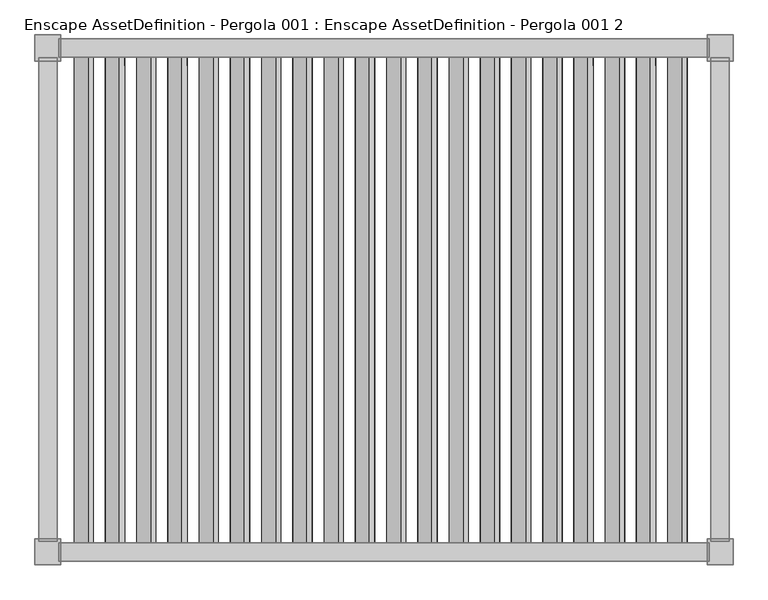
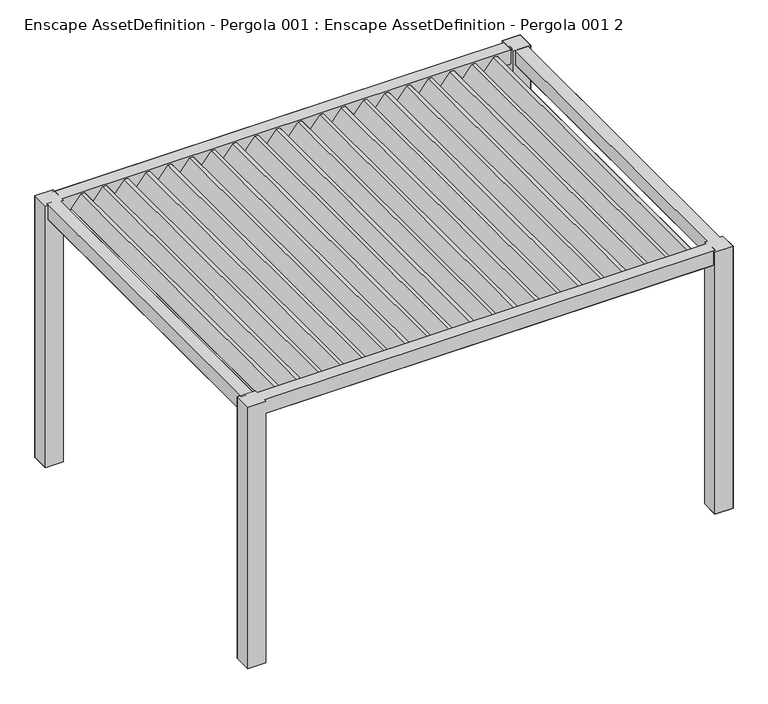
"""IFC4 building model written with IfcOpenShell, lengths in millimetres: geographic element geometry, Enscape AssetDefinition - Pergola 001 : Enscape AssetDefinition - Pergola 001 2."""

from ifc_helpers import new_model, si_unit, origin, place, context, project, spatial, triangles, source, transform, mapped, element, save


def enscape_assetdefinition_pergola_001_enscape_assetdefinition_72efe9a7(model_context):
    return source(origin(), model_context, "Body", "Tessellation", [
        triangles([(2620.0299019, -2007.3024765, 0.0), (2423.790572, -2007.3024765, 0.0), (2423.790572, -2007.3024765, 3000.0000229), (2423.790572, -1811.0643093, 0.0), (2620.0299019, -1811.0643093, 3000.0000229), (2620.0299019, -2007.3024765, 3000.0000229), (2423.790572, -1811.0643093, 3000.0000229), (2620.0299019, -1811.0643093, 0.0), (2590.7956398, 1818.3394466, 2998.146357), (2590.7956398, -1829.5182701, 2998.146357), (2453.0232353, -1829.5182701, 2836.9916588), (2453.0232353, -1829.5182701, 2998.146357), (2453.0232353, 1818.3394466, 2836.9916588), (2590.7956398, 1818.3394466, 2836.9916588), (2453.0232353, 1818.3394466, 2998.146357), (2590.7956398, -1829.5182701, 2836.9925308), (2442.2445328, -1840.3263313, 2836.9925308), (-2463.6807243, -1840.3286568, 2998.146357), (-2463.6807243, -1978.1012066, 2998.146357), (2442.2445328, -1978.1000439, 2998.1475197), (2442.2445328, -1978.1000439, 2836.9925308), (-2463.6807243, -1840.3286568, 2836.9916588), (-2463.6807243, -1978.1012066, 2836.9916588), (2442.2445328, -1840.3263313, 2998.1475197), (2232.8254841, 1823.4895683, 2980.2256485), (2272.7090961, -1840.3276394, 2980.6369606), (2272.7104042, 1823.4895683, 2980.6369606), (2232.8254841, -1840.3276394, 2980.2241951), (2127.0147915, 1823.4895683, 2847.9197708), (2127.0131927, -1840.3276394, 2847.9197708), (2166.8984035, -1840.3276394, 2848.3313736), (2166.8998569, 1823.4895683, 2848.3322456), (2037.3026802, 1823.4895683, 2980.6369606), (2037.3026802, -1840.3276394, 2980.6369606), (1997.4176147, 1823.4895683, 2980.2256485), (1997.4176147, -1840.3276394, 2980.2241951), (1891.6069221, 1823.4895683, 2847.9197708), (1891.6057594, -1840.3276394, 2847.9197708), (1931.4918423, 1823.4895683, 2848.3322456), (1931.4906796, -1840.3276394, 2848.3313736), (1801.8937935, -1840.3276394, 2980.6369606), (1762.0097454, -1840.3276394, 2980.2241951), (1801.8949562, 1823.4895683, 2980.6369606), (1762.0097454, 1823.4895683, 2980.2256485), (1656.1990528, 1823.4895683, 2847.9197708), (1656.1978901, -1840.3276394, 2847.9197708), (1696.0842636, 1823.4895683, 2848.3322456), (1696.0831009, -1840.3276394, 2848.3313736), (1566.4859241, -1840.3276394, 2980.6369606), (1526.6021667, -1840.3276394, 2980.2241951), (1460.6752316, -1840.3276394, 2848.3313736), (1526.6021667, 1823.4895683, 2980.2256485), (1420.7913288, 1823.4895683, 2847.9197708), (1420.7901661, -1840.3276394, 2847.9197708), (1460.6765396, 1823.4895683, 2848.3322456), (1566.4873775, 1823.4895683, 2980.6369606), (1331.0793629, 1823.4895683, 2980.6369606), (1331.0782001, -1840.3276394, 2980.6369606), (1291.1942974, 1823.4895683, 2980.2256485), (1291.1942974, -1840.3276394, 2980.2241951), (1185.3837502, 1823.4895683, 2847.9197708), (1185.3824421, -1840.3276394, 2847.9197708), (1225.2688156, 1823.4895683, 2848.3322456), (1225.2675076, -1840.3276394, 2848.3313736), (1055.7866461, 1823.4895683, 2980.2256485), (1095.6716389, -1840.3276394, 2980.6369606), (1095.6716389, 1823.4895683, 2980.6369606), (1055.7866461, -1840.3276394, 2980.2241951), (949.9759535, 1823.4895683, 2847.9197708), (949.9747181, -1840.3276394, 2847.9197708), (989.8610916, 1823.4895683, 2848.3322456), (989.8597836, -1840.3276394, 2848.3313736), (820.3789948, 1823.4895683, 2980.2256485), (860.2640602, 1823.4895683, 2980.6369606), (860.2640602, -1840.3276394, 2980.6369606), (754.4520596, -1840.3276394, 2848.3313736), (820.3789948, -1840.3276394, 2980.2241951), (714.5682295, 1823.4895683, 2847.9197708), (714.5669941, -1840.3276394, 2847.9197708), (754.4532949, 1823.4895683, 2848.3322456), (584.9711254, -1840.3276394, 2980.2241951), (624.8562635, -1840.3276394, 2980.6369606), (624.8562635, 1823.4895683, 2980.6369606), (584.9723971, 1823.4895683, 2980.2256485), (519.0455709, 1823.4895683, 2848.3322456), (479.1592338, -1840.3276394, 2847.9197708), (479.1605055, 1823.4895683, 2847.9197708), (519.0442992, -1840.3276394, 2848.3313736), (283.6365752, -1840.3276394, 2848.3313736), (389.4485032, 1823.4895683, 2980.6369606), (389.4485032, -1840.3276394, 2980.6369606), (349.5646368, 1823.4895683, 2980.2256485), (349.5634014, -1840.3276394, 2980.2241951), (243.7527452, 1823.4895683, 2847.9197708), (243.7514734, -1840.3276394, 2847.9197708), (283.6378469, 1823.4895683, 2848.3322456), (114.1556592, -1840.3276394, 2980.2241951), (154.040761, 1823.4895683, 2980.6369606), (154.040761, -1840.3276394, 2980.6369606), (114.1569219, 1823.4895683, 2980.2256485), (8.343742, -1840.3276394, 2847.9197708), (8.3450081, 1823.4895683, 2847.9197708), (48.2300957, 1823.4895683, 2848.3322456), (48.2288285, -1840.3276394, 2848.3313736), (-121.2508294, 1823.4895683, 2980.2256485), (-121.2520829, -1840.3276394, 2980.2241951), (-81.3669902, -1840.3276394, 2980.6369606), (-81.3669902, 1823.4895683, 2980.6369606), (-227.0627392, 1823.4895683, 2847.9197708), (-227.0640109, -1840.3276394, 2847.9197708), (-187.1776737, 1823.4895683, 2848.3322456), (-187.1789091, -1840.3276394, 2848.3313736), (-316.7760132, -1840.3276394, 2980.6369606), (-356.6598069, 1823.4895683, 2980.2256485), (-316.7747415, 1823.4895683, 2980.6369606), (-356.6598069, -1840.3276394, 2980.2241951), (-462.4704632, 1823.4895683, 2847.9197708), (-462.4717349, -1840.3276394, 2847.9197708), (-422.5866694, -1840.3276394, 2848.3313736), (-422.5853977, 1823.4895683, 2848.3322456), (-552.1837372, -1840.3276394, 2980.6369606), (-552.1825018, 1823.4895683, 2980.6369606), (-592.0676036, 1823.4895683, 2980.2256485), (-657.9943571, -1840.3276394, 2848.3313736), (-592.0676036, -1840.3276394, 2980.2241951), (-697.8782598, 1823.4895683, 2847.9197708), (-697.8794952, -1840.3276394, 2847.9197708), (-657.9931944, 1823.4895683, 2848.3322456), (-787.5914612, -1840.3276394, 2980.6369606), (-787.5901531, 1823.4895683, 2980.6369606), (-827.4752913, 1823.4895683, 2980.2256485), (-827.4752913, -1840.3276394, 2980.2241951), (-933.2872919, -1840.3276394, 2847.9197708), (-933.2859838, 1823.4895683, 2847.9197708), (-893.4009184, 1823.4895683, 2848.3322456), (-893.4021538, -1840.3276394, 2848.3313736), (-1062.8830153, -1840.3276394, 2980.2241951), (-1022.9978771, -1840.3276394, 2980.6369606), (-1022.9978771, 1823.4895683, 2980.6369606), (-1062.8830153, 1823.4895683, 2980.2256485), (-1168.6936352, 1823.4895683, 2847.9197708), (-1128.8085697, 1823.4895683, 2848.3322456), (-1168.6949432, -1840.3276394, 2847.9197708), (-1128.8098051, -1840.3276394, 2848.3313736), (-1258.4057465, -1840.3276394, 2980.6369606), (-1298.2908119, 1823.4895683, 2980.2256485), (-1258.4057465, 1823.4895683, 2980.6369606), (-1298.2908119, -1840.3276394, 2980.2241951), (-1404.1013592, 1823.4895683, 2847.9197708), (-1404.1028126, -1840.3276394, 2847.9197708), (-1364.2162937, 1823.4895683, 2848.3322456), (-1364.2176018, -1840.3276394, 2848.3313736), (-1533.6983906, -1840.3276394, 2980.2241951), (-1493.8133251, 1823.4895683, 2980.6369606), (-1493.8133251, -1840.3276394, 2980.6369606), (-1533.6972279, 1823.4895683, 2980.2256485), (-1639.5106819, -1840.3276394, 2847.9197708), (-1639.5093739, 1823.4895683, 2847.9197708), (-1599.6241631, 1823.4895683, 2848.3322456), (-1599.6254711, -1840.3276394, 2848.3313736), (-1729.2213398, -1840.3276394, 2980.6369606), (-1835.0329044, -1840.3276394, 2848.3313736), (-1729.2213398, 1823.4895683, 2980.6369606), (-1769.1049519, 1823.4895683, 2980.2256485), (-1769.1064053, -1840.3276394, 2980.2241951), (-1874.9169525, 1823.4895683, 2847.9197708), (-1874.9181152, -1840.3276394, 2847.9197708), (-1835.0317417, 1823.4895683, 2848.3322456), (-1964.6289185, -1840.3276394, 2980.6369606), (-2004.5128212, 1823.4895683, 2980.2256485), (-2004.5141293, -1840.3276394, 2980.2241951), (-2110.3248219, 1823.4895683, 2847.9197708), (-2110.3261299, -1840.3276394, 2847.9197708), (-2070.4409191, -1840.3276394, 2848.3313736), (-2070.4396111, 1823.4895683, 2848.3322456), (-1964.6289185, 1823.4895683, 2980.6369606), (-2239.9206905, 1823.4895683, 2980.2256485), (-2239.9217079, -1840.3276394, 2980.2241951), (-2200.0366425, -1840.3276394, 2980.6369606), (-2200.0366425, 1823.4895683, 2980.6369606), (-2345.7337086, -1840.3276394, 2847.9197708), (-2305.8474804, 1823.4895683, 2848.3322456), (-2305.8486431, -1840.3276394, 2848.3313736), (-2345.7324005, 1823.4895683, 2847.9197708), (2620.0284485, 1794.008519, 0.0), (2423.790572, 1794.008519, 0.0), (2423.790572, 1990.2477036, 0.0), (2620.0284485, 1794.008519, 3000.0000229), (2620.0284485, 1990.2477036, 0.0), (2620.0284485, 1990.2477036, 3000.0000229), (2423.790572, 1990.2477036, 3000.0000229), (2423.790572, 1794.008519, 3000.0000229), (-2641.4649307, -1811.0643093, 0.0), (-2445.2254555, -2007.3037846, 0.0), (-2641.4649307, -1811.0643093, 3000.0000229), (-2445.2254555, -1811.0643093, 3000.0000229), (-2445.2254555, -1811.0643093, 0.0), (-2445.2254555, -2007.3037846, 3000.0000229), (-2641.4649307, -2007.3037846, 3000.0000229), (-2641.4649307, -2007.3037846, 0.0), (-2641.4649307, 1990.2477036, 0.0), (-2641.4649307, 1990.2477036, 3000.0000229), (-2641.4649307, 1794.008519, 3000.0000229), (-2445.2254555, 1794.008519, 0.0), (-2445.2254555, 1794.008519, 3000.0000229), (-2445.2254555, 1990.2477036, 0.0), (-2641.4649307, 1794.008519, 0.0), (-2445.2254555, 1990.2477036, 3000.0000229), (2442.2445328, 1961.0162029, 2836.9925308), (2442.2445328, 1961.0162029, 2998.1475197), (2442.2445328, 1823.2437984, 2998.1475197), (-2463.6807243, 1961.0147495, 2836.9916588), (2442.2445328, 1823.2437984, 2836.9925308), (-2463.6807243, 1823.2424904, 2836.9916588), (-2463.6807243, 1823.2424904, 2998.146357), (-2463.6807243, 1961.0147495, 2998.146357), (-2612.232122, -1829.5182701, 2836.9916588), (-2474.4597176, 1818.3394466, 2998.146357), (-2474.4597176, -1829.5182701, 2998.146357), (-2474.4597176, 1818.3394466, 2836.9916588), (-2612.232122, 1818.3394466, 2998.146357), (-2612.232122, -1829.5182701, 2998.146357), (-2474.4597176, -1829.5182701, 2836.9925308), (-2612.232122, 1818.3394466, 2836.9916588)], [[218, 221, 222], [224, 220, 223], [222, 217, 223], [220, 224, 221], [223, 220, 218], [222, 221, 224], [218, 222, 219], [224, 223, 217], [222, 223, 219], [220, 221, 218], [223, 218, 219], [222, 224, 217], [210, 216, 215], [212, 214, 215], [213, 214, 212], [211, 213, 209], [209, 212, 216], [211, 215, 214], [210, 215, 211], [212, 215, 216], [213, 212, 209], [211, 209, 210], [209, 216, 210], [211, 214, 213], [202, 208, 206], [205, 203, 207], [201, 206, 204], [205, 208, 202], [203, 202, 201], [208, 205, 204], [202, 206, 201], [205, 207, 204], [201, 204, 207], [205, 202, 203], [203, 201, 207], [208, 204, 206], [195, 196, 197], [198, 199, 200], [193, 197, 194], [198, 196, 195], [199, 195, 193], [196, 198, 194], [195, 197, 193], [198, 200, 194], [193, 194, 200], [198, 195, 199], [199, 193, 200], [196, 194, 197], [191, 190, 189], [188, 192, 186], [187, 189, 185], [188, 190, 191], [192, 191, 187], [190, 188, 185], [191, 189, 187], [188, 186, 185], [187, 185, 186], [188, 191, 192], [192, 187, 186], [190, 185, 189], [183, 182, 180], [181, 184, 182], [181, 182, 183], [181, 178, 177], [181, 177, 184], [179, 180, 177], [183, 180, 179], [179, 177, 178], [174, 175, 176], [173, 175, 174], [173, 172, 175], [171, 172, 173], [171, 170, 172], [169, 176, 170], [174, 176, 169], [169, 170, 171], [162, 168, 163], [167, 168, 162], [167, 166, 168], [165, 166, 167], [165, 164, 166], [161, 163, 164], [162, 163, 161], [161, 164, 165], [160, 159, 154], [157, 159, 160], [157, 158, 159], [153, 158, 157], [153, 156, 158], [155, 154, 156], [160, 154, 155], [155, 156, 153], [152, 151, 147], [150, 151, 152], [150, 149, 151], [148, 149, 150], [148, 146, 149], [145, 147, 146], [152, 147, 145], [145, 146, 148], [144, 142, 139], [143, 142, 144], [143, 141, 142], [137, 141, 143], [137, 140, 141], [138, 139, 140], [144, 139, 138], [138, 140, 137], [136, 135, 130], [133, 135, 136], [133, 134, 135], [132, 134, 133], [132, 131, 134], [129, 130, 131], [136, 130, 129], [129, 131, 132], [127, 128, 124], [127, 126, 128], [125, 126, 127], [125, 123, 126], [121, 124, 128], [121, 122, 123], [121, 128, 122], [121, 123, 125], [119, 120, 115], [118, 120, 119], [118, 117, 120], [116, 117, 118], [116, 114, 117], [113, 115, 114], [119, 115, 113], [113, 114, 116], [112, 111, 108], [110, 111, 112], [110, 109, 111], [106, 109, 110], [106, 105, 109], [107, 108, 105], [112, 108, 107], [107, 105, 106], [104, 103, 98], [101, 103, 104], [101, 102, 103], [97, 102, 101], [97, 100, 102], [99, 98, 100], [104, 98, 99], [99, 100, 97], [89, 96, 90], [95, 96, 89], [95, 94, 96], [93, 94, 95], [93, 92, 94], [91, 90, 92], [89, 90, 91], [91, 92, 93], [86, 85, 88], [86, 87, 85], [81, 87, 86], [81, 84, 87], [82, 88, 85], [82, 83, 84], [82, 85, 83], [82, 84, 81], [79, 80, 76], [79, 78, 80], [77, 78, 79], [77, 73, 78], [75, 76, 80], [75, 74, 73], [75, 80, 74], [75, 73, 77], [72, 71, 67], [70, 71, 72], [70, 69, 71], [68, 69, 70], [68, 65, 69], [66, 67, 65], [72, 67, 66], [66, 65, 68], [64, 63, 57], [62, 63, 64], [62, 61, 63], [60, 61, 62], [60, 59, 61], [58, 57, 59], [64, 57, 58], [58, 59, 60], [51, 55, 56], [54, 55, 51], [54, 53, 55], [50, 53, 54], [50, 52, 53], [49, 56, 52], [51, 56, 49], [49, 52, 50], [48, 47, 43], [46, 47, 48], [46, 45, 47], [42, 45, 46], [42, 44, 45], [41, 43, 44], [48, 43, 41], [41, 44, 42], [40, 39, 33], [38, 39, 40], [38, 37, 39], [36, 37, 38], [36, 35, 37], [34, 33, 35], [40, 33, 34], [34, 35, 36], [31, 32, 27], [30, 32, 31], [30, 29, 32], [28, 29, 30], [28, 25, 29], [26, 27, 25], [31, 27, 26], [26, 25, 28], [24, 18, 19], [22, 23, 19], [21, 23, 22], [20, 21, 17], [17, 22, 18], [20, 19, 23], [24, 19, 20], [22, 19, 18], [21, 22, 17], [20, 17, 24], [17, 18, 24], [20, 23, 21], [9, 15, 12], [13, 14, 16], [12, 11, 16], [14, 13, 15], [16, 14, 9], [12, 15, 13], [9, 12, 10], [13, 16, 11], [12, 16, 10], [14, 15, 9], [16, 9, 10], [12, 13, 11], [7, 5, 8], [6, 3, 2], [4, 8, 1], [6, 5, 7], [3, 7, 4], [5, 6, 1], [7, 8, 4], [6, 2, 1], [4, 1, 2], [6, 7, 3], [3, 4, 2], [5, 1, 8]], closed=False),
    ])


if __name__ == "__main__":
    model = new_model("IFC4")
    model_context = context("Model", 3, world=origin())
    ifc_project = project(units=[si_unit("LENGTHUNIT", "METRE", prefix="MILLI")], contexts=[model_context])
    site = spatial("IfcSite", under=ifc_project)
    building = spatial("IfcBuilding", under=site)
    placement = place(None, origin())
    enscape_assetdefinition_pergola_001_enscape_assetdefinition_shape = enscape_assetdefinition_pergola_001_enscape_assetdefinition_72efe9a7(model_context)
    element("IfcGeographicElement", 1, ObjectType="Enscape AssetDefinition - Pergola 001 : Enscape AssetDefinition - Pergola 001 2", at=placement, inside=building, context=model_context, shape_type="MappedRepresentation", body=[
        mapped(enscape_assetdefinition_pergola_001_enscape_assetdefinition_shape, transform((0.0, 0.0, 0.0), x_axis=(1.0, 0.0, 0.0), y_axis=(0.0, 1.0, 0.0), z_axis=(0.0, 0.0, 1.0))),
    ])
    save(model, "model.ifc")
